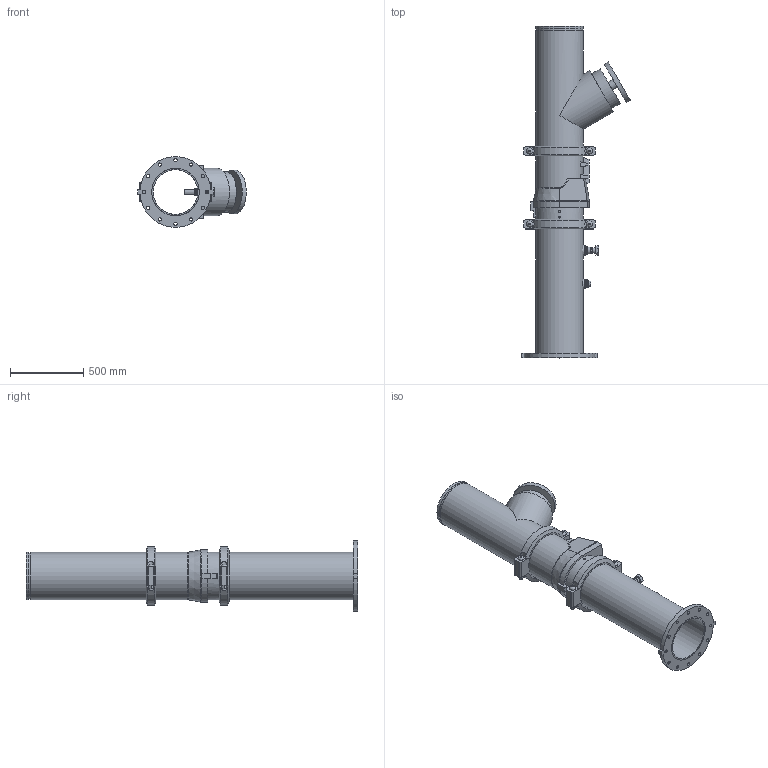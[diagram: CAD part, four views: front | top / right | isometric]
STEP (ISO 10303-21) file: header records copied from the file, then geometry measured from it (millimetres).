
FILE_DESCRIPTION(/* description */ ('VIC DVI PUMP DROP VERT S/383 (OGSxFLG) (S/924-1.25)','CAx-IF Rec.Pracs.---Representation and Presentation of Product Manufacturing Information (PMI)---4.0---2014-10-13'),/* implementation_level */ '2;1');
FILE_NAME(/* name */ 'C:\Users\Public\Documents\Victaulic.Temp\A849\Victaulic_IPS_Vertical DVI_CL 150_Series 383 (OGSxFLG)_924 (1.25)_12.0x12.0 (300x300).stp',/* time_stamp */ '2022-07-25T11:42:59+02:00',/* author */ ('Vjadhav'),/* organization */ ('Victaulic'),/* preprocessor_version */ 'ST-DEVELOPER v18',/* originating_system */ 'Autodesk Inventor 2020',/* authorisation */ '');
FILE_SCHEMA (('AP242_MANAGED_MODEL_BASED_3D_ENGINEERING_MIM_LF { 1 0 10303 442 1 1 4 }'));
Length unit declared in the file: inch
Products named in the file (8): 383_924 (1.25)-12.0x12.0; 741-12.0; Pipe-12.0x12.0; 789-12.0; 779-12.0; 924-10.0x01.25; 923-10.0x0.75; 077-12.0
Assembly tree (8 placements, depth 2):
  383_924 (1.25)-12.0x12.0
    741-12.0
    Pipe-12.0x12.0
    789-12.0
    779-12.0
    924-10.0x01.25
    923-10.0x0.75
    077-12.0  x2
Bounding box: 739.77 x 2263.9 x 482.6 mm (x, y, z)
Volume: 58402794.8 mm3; surface area: 6107847.3 mm2
Topology: 8 solids, 13 shells, 381 faces, 953 edges, 651 vertices
Faces by surface type: plane 231, cylinder 125, cone 13, torus 6, bspline 6
Full cylindrical faces by diameter (mm): 13.716 x4, 21.336 x2, 22.225 x12, 25.4 x8, 26.67 x2, 27.432 x4, 38.608 x1, 42.164 x1, 45.974 x4, 48.514 x1, 55.626 x2, 60.96 x1, 76.2 x1, 273.05 x1, 299.974 x1, 303.225 x2, 304.8 x1, 314.96 x2, 318.287 x6, 323.85 x16
Entity records: 10859 total; most frequent: CARTESIAN_POINT 2103, DIRECTION 1786, ORIENTED_EDGE 1616, EDGE_CURVE 808, AXIS2_PLACEMENT_3D 676, VERTEX_POINT 553, LINE 434, VECTOR 434
